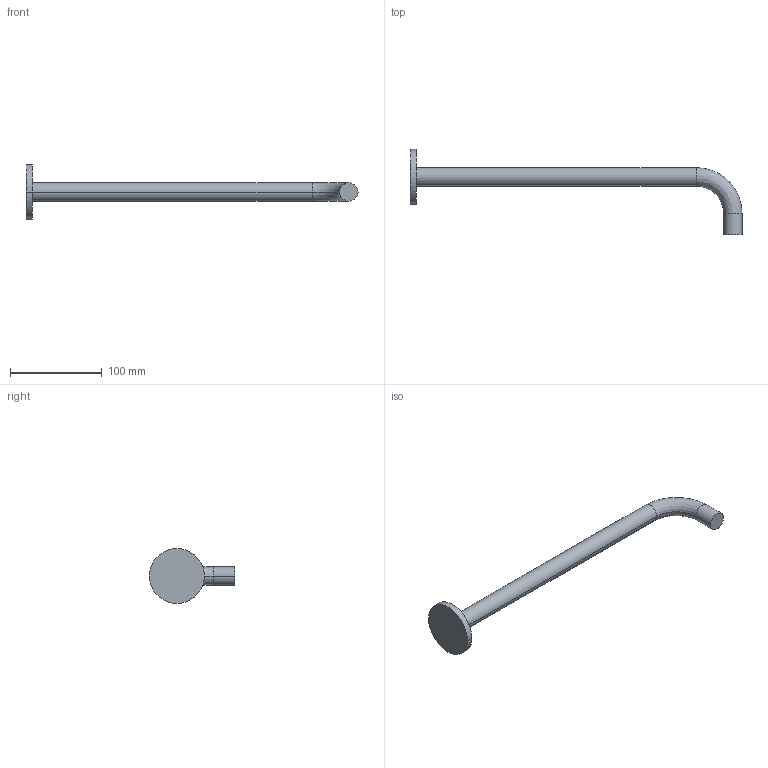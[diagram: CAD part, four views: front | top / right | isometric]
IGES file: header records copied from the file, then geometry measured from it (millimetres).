
Start section:  PTC IGES file: 26_000_800_xxx.igs
Global section: file name: 26_000_800_xxx.igs; native system: Creo Elements/Pro by Parametric Technology Corporation; preprocessor: 2011080; author: hpf; organization: Unknown; date: 20120113.133648; units: millimetre
Bounding box: 362 x 93 x 60 mm (x, y, z)
Volume: 142575.5 mm3; surface area: 31531 mm2
Topology: 1 solids, 1 shells, 11 faces, 20 edges, 12 vertices
Faces by surface type: revolution 8, bspline 3
